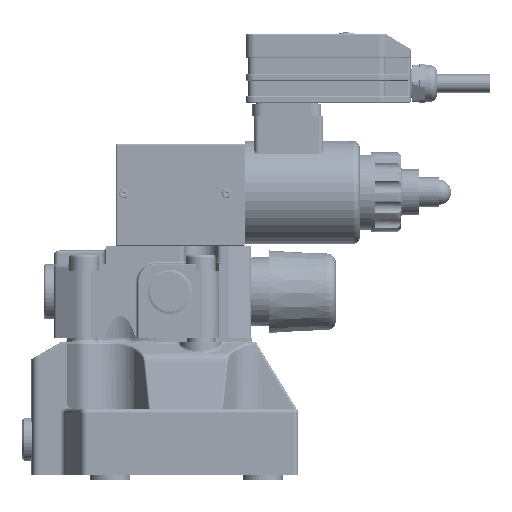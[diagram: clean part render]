
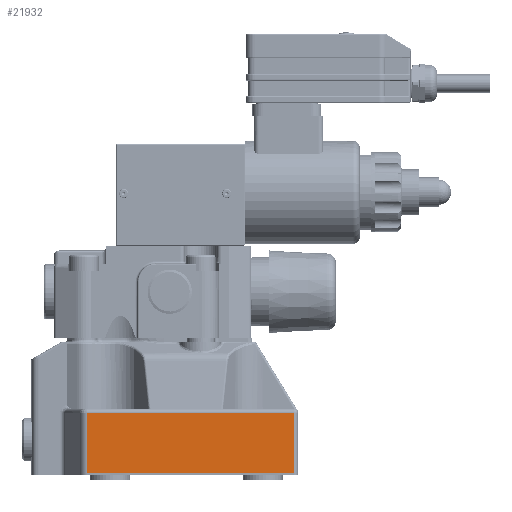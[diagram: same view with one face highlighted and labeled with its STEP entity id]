
A CAD part, front view. The second image highlights one B-rep face of the part: STEP entity #21932.
In plain terms, the highlighted planar face has unit normal (0, -1, 0).
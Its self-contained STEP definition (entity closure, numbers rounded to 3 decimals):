
#4708=FACE_OUTER_BOUND('',#28004,.T.);
#8371=LINE('',#125427,#12119);
#8460=LINE('',#126219,#12208);
#8475=LINE('',#126262,#12223);
#8476=LINE('',#126264,#12224);
#12119=VECTOR('',#72873,1.);
#12208=VECTOR('',#73220,1.);
#12223=VECTOR('',#73265,1.);
#12224=VECTOR('',#73266,1.);
#19662=PLANE('',#62421);
#21932=ADVANCED_FACE('',(#4708),#19662,.F.);
#28004=EDGE_LOOP('',(#38541,#38542,#38543,#38544));
#38541=ORIENTED_EDGE('',*,*,#54094,.T.);
#38542=ORIENTED_EDGE('',*,*,#54327,.T.);
#38543=ORIENTED_EDGE('',*,*,#54328,.T.);
#38544=ORIENTED_EDGE('',*,*,#54304,.T.);
#47664=VERTEX_POINT('',#125426);
#47665=VERTEX_POINT('',#125428);
#47846=VERTEX_POINT('',#126220);
#47859=VERTEX_POINT('',#126263);
#54094=EDGE_CURVE('',#47665,#47664,#8371,.T.);
#54304=EDGE_CURVE('',#47846,#47665,#8460,.T.);
#54327=EDGE_CURVE('',#47664,#47859,#8475,.T.);
#54328=EDGE_CURVE('',#47859,#47846,#8476,.T.);
#62421=AXIS2_PLACEMENT_3D('',#126265,#73267,#73268);
#72873=DIRECTION('',(1.,0.,0.));
#73220=DIRECTION('',(0.,0.,-1.));
#73265=DIRECTION('',(0.,0.,1.));
#73266=DIRECTION('',(-1.,0.,0.));
#73267=DIRECTION('',(0.,1.,0.));
#73268=DIRECTION('',(0.,0.,1.));
#125426=CARTESIAN_POINT('',(641.878,0.167,-15.368));
#125427=CARTESIAN_POINT('',(551.656,0.167,-15.368));
#125428=CARTESIAN_POINT('',(551.656,0.167,-15.368));
#126219=CARTESIAN_POINT('',(551.656,0.16,43.632));
#126220=CARTESIAN_POINT('',(551.656,0.164,10.632));
#126262=CARTESIAN_POINT('',(641.878,0.16,43.632));
#126263=CARTESIAN_POINT('',(641.878,0.164,10.632));
#126264=CARTESIAN_POINT('',(551.656,0.164,10.632));
#126265=CARTESIAN_POINT('',(551.656,0.16,43.632));
